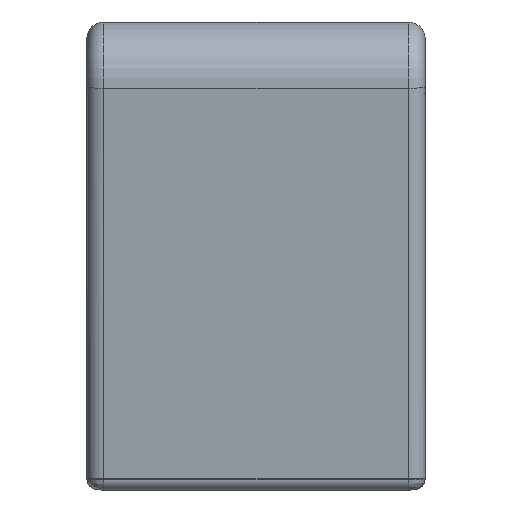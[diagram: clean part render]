
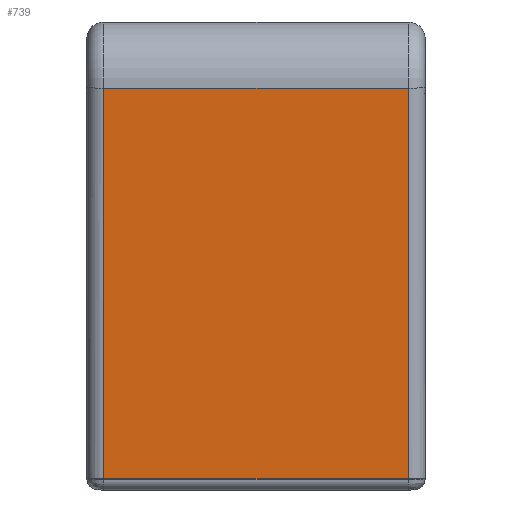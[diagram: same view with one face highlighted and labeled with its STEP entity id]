
A CAD part, left-side view. The second image highlights one B-rep face of the part: STEP entity #739.
In plain terms, the highlighted planar face has unit normal (-0.998, 0, -0.067).
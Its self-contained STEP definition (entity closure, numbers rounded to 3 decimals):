
#17 = EDGE_LOOP ( 'NONE', ( #3125, #3124, #3122, #3120 ) ) ;
#294 = EDGE_CURVE ( 'NONE', #5067, #5084, #3872, .T. ) ;
#295 = EDGE_CURVE ( 'NONE', #5084, #5079, #3874, .T. ) ;
#296 = EDGE_CURVE ( 'NONE', #5079, #5069, #3877, .T. ) ;
#297 = EDGE_CURVE ( 'NONE', #5067, #5069, #3881, .T. ) ;
#656 = AXIS2_PLACEMENT_3D ( 'NONE', #2455, #2456, #2457 ) ;
#739 = ADVANCED_FACE ( 'NONE', ( #4474 ), #2454, .T. ) ;
#1339 = CARTESIAN_POINT ( 'NONE',  ( -267.388, 13.5, 28.632 ) ) ;
#1341 = CARTESIAN_POINT ( 'NONE',  ( -267.388, -13.5, 28.632 ) ) ;
#1351 = CARTESIAN_POINT ( 'NONE',  ( -265.063, -13.5, -6.067 ) ) ;
#1356 = CARTESIAN_POINT ( 'NONE',  ( -265.063, 13.5, -6.067 ) ) ;
#2454 = PLANE ( 'NONE',  #656 ) ;
#2455 = CARTESIAN_POINT ( 'NONE',  ( -265., 15., -7. ) ) ;
#2456 = DIRECTION ( 'NONE',  ( -0.998, 0., -0.067 ) ) ;
#2457 = DIRECTION ( 'NONE',  ( -0.067, 0., 0.998 ) ) ;
#3120 = ORIENTED_EDGE ( 'NONE', *, *, #297, .F. ) ;
#3122 = ORIENTED_EDGE ( 'NONE', *, *, #296, .T. ) ;
#3124 = ORIENTED_EDGE ( 'NONE', *, *, #295, .T. ) ;
#3125 = ORIENTED_EDGE ( 'NONE', *, *, #294, .T. ) ;
#3872 = LINE ( 'NONE', #4197, #3873 ) ;
#3873 = VECTOR ( 'NONE', #4195, 1000. ) ;
#3874 = LINE ( 'NONE', #4193, #3875 ) ;
#3875 = VECTOR ( 'NONE', #4192, 1000. ) ;
#3877 = LINE ( 'NONE', #4189, #3879 ) ;
#3879 = VECTOR ( 'NONE', #4187, 1000. ) ;
#3881 = LINE ( 'NONE', #4185, #3883 ) ;
#3883 = VECTOR ( 'NONE', #4181, 1000. ) ;
#4181 = DIRECTION ( 'NONE',  ( 0., -1., 0. ) ) ;
#4185 = CARTESIAN_POINT ( 'NONE',  ( -267.388, 15., 28.632 ) ) ;
#4187 = DIRECTION ( 'NONE',  ( -0.067, 0., 0.998 ) ) ;
#4189 = CARTESIAN_POINT ( 'NONE',  ( -267.388, -13.5, 28.632 ) ) ;
#4192 = DIRECTION ( 'NONE',  ( 0., -1., 0. ) ) ;
#4193 = CARTESIAN_POINT ( 'NONE',  ( -265.063, 15., -6.067 ) ) ;
#4195 = DIRECTION ( 'NONE',  ( 0.067, 0., -0.998 ) ) ;
#4197 = CARTESIAN_POINT ( 'NONE',  ( -265., 13.5, -7. ) ) ;
#4474 = FACE_OUTER_BOUND ( 'NONE', #17, .T. ) ;
#5067 = VERTEX_POINT ( 'NONE', #1339 ) ;
#5069 = VERTEX_POINT ( 'NONE', #1341 ) ;
#5079 = VERTEX_POINT ( 'NONE', #1351 ) ;
#5084 = VERTEX_POINT ( 'NONE', #1356 ) ;
